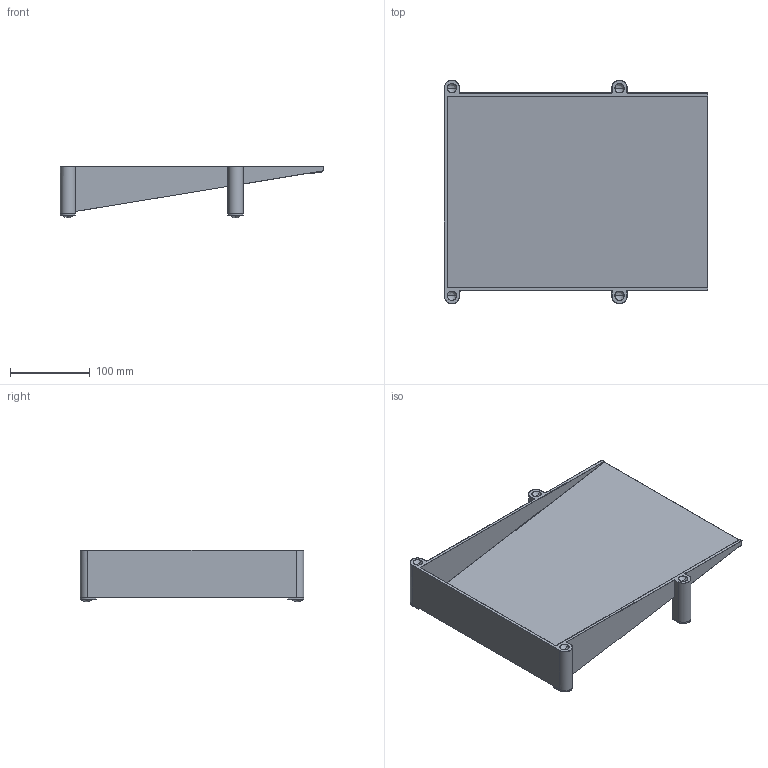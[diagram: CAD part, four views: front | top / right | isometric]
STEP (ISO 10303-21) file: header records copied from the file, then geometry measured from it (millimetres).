
FILE_DESCRIPTION(/* description */ (''),/* implementation_level */ '2;1');
FILE_NAME(/* name */ 'SUMATRA',/* time_stamp */ '2017-07-03T10:55:45+02:00',/* author */ (''),/* organization */ (''),/* preprocessor_version */ 'ST-DEVELOPER v10',/* originating_system */ '',/* authorisation */ '');
FILE_SCHEMA (('CONFIG_CONTROL_DESIGN'));
Length unit declared in the file: millimetre
Products named in the file (3): 1; 2; 3
Assembly tree (5 placements, depth 2):
  1
    2
    3  x4
Bounding box: 329.99 x 279.97 x 65 mm (x, y, z)
Volume: 550717.2 mm3; surface area: 262945.4 mm2
Topology: 5 solids, 5 shells, 271 faces, 657 edges, 375 vertices
Faces by surface type: bspline 164, plane 107
Entity records: 6183 total; most frequent: CARTESIAN_POINT 3002, ORIENTED_EDGE 950, EDGE_CURVE 475, B_SPLINE_CURVE_WITH_KNOTS 296, VERTEX_POINT 288, EDGE_LOOP 213, ADVANCED_FACE 202, FACE_OUTER_BOUND 202
